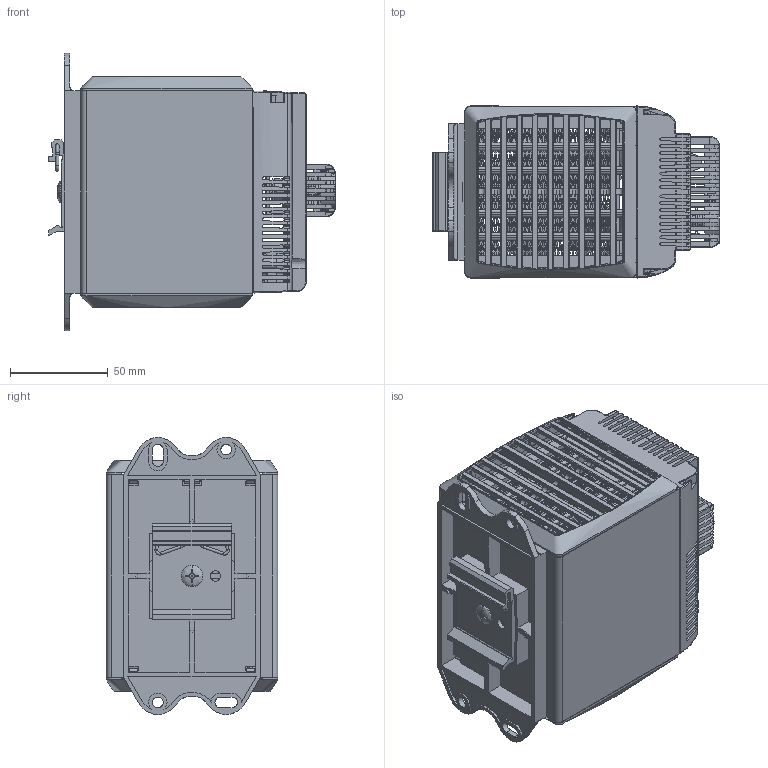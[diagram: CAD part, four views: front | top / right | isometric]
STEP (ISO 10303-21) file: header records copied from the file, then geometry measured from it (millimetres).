
FILE_DESCRIPTION(/* description */ ('STEP AP242 Edition 2','CAx-IF Rec.Pracs.---Representation and Presentation of Product Manufacturing Information (PMI)---4.0---2014-10-13','CAx-IF Rec.Pracs.---3D Tessellated Geometry---0.4---2014-09-14','2;1','CAx-IF Rec.Pracs.---User Defined Attributes---1.5---2016-08-15'),/* implementation_level */ '2;1');
FILE_NAME(/* name */ '6a30559346338049d7b129fb',/* time_stamp */ '2026-06-15T19:42:16Z',/* author */ (''),/* organization */ (''),/* preprocessor_version */ 'ST-DEVELOPER v20',/* originating_system */ 'ONSHAPE BY PTC INC, 1.216',/* authorisation */ ' ');
FILE_SCHEMA (('AP242_MANAGED_MODEL_BASED_3D_ENGINEERING_MIM_LF { 1 0 10303 442 3 1 4 }'));
Products named in the file (51): SD-104 - Rev A - 200 Watt Compact Heater, DIN/Wall Mountable, 115VAC; RLH-H200-1
Assembly tree (50 placements, depth 2):
  SD-104 - Rev A - 200 Watt Compact Heater, DIN/Wall Mountable, 115VAC
    RLH-H200-1
    RLH-H200-1
    RLH-H200-1
    RLH-H200-1
    RLH-H200-1
    RLH-H200-1
    RLH-H200-1
    RLH-H200-1
    RLH-H200-1
    RLH-H200-1
    RLH-H200-1
    RLH-H200-1
    RLH-H200-1
    RLH-H200-1
    RLH-H200-1
    RLH-H200-1
    RLH-H200-1
    RLH-H200-1
    RLH-H200-1
    RLH-H200-1
    RLH-H200-1
    RLH-H200-1
    RLH-H200-1
    RLH-H200-1
    RLH-H200-1
    RLH-H200-1
    RLH-H200-1
    RLH-H200-1
    RLH-H200-1
    RLH-H200-1
    RLH-H200-1
    RLH-H200-1
    RLH-H200-1
    RLH-H200-1
    RLH-H200-1
    RLH-H200-1
    RLH-H200-1
    RLH-H200-1
    RLH-H200-1
    RLH-H200-1
    RLH-H200-1
    RLH-H200-1
    RLH-H200-1
    RLH-H200-1
    RLH-H200-1
    RLH-H200-1
    RLH-H200-1
    RLH-H200-1
    RLH-H200-1
    RLH-H200-1
Bounding box: 147 x 88 x 142.1 mm (x, y, z)
Volume: 360433.6 mm3; surface area: 393942.6 mm2
Topology: 50 solids, 50 shells, 6504 faces, 19032 edges, 12429 vertices
Faces by surface type: plane 4895, cylinder 1028, bspline 299, cone 213, torus 60, sphere 9
Full cylindrical faces by diameter (mm): 1.33 x4, 1.5 x6, 2 x6, 2.5 x2, 2.7 x2, 2.9 x2, 3 x4, 3.05 x1, 3.1 x3, 3.35 x1, 3.6 x2, 3.8 x3, 4 x5, 4.2 x5, 4.25 x1, 4.5 x8, 5.3 x3, 5.6 x2, 5.95 x1, 6 x7, 6.083 x2, 7 x1, 7.3 x1, 7.6 x1, 7.7 x1, 8.2 x4, 10.3 x1, 11 x1, 12 x3, 17 x1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
Entity records: 242397 total; most frequent: CARTESIAN_POINT 67012, ORIENTED_EDGE 37566, DIRECTION 32490, EDGE_CURVE 18783, LINE 14542, VECTOR 14542, VERTEX_POINT 12377, AXIS2_PLACEMENT_3D 8974
